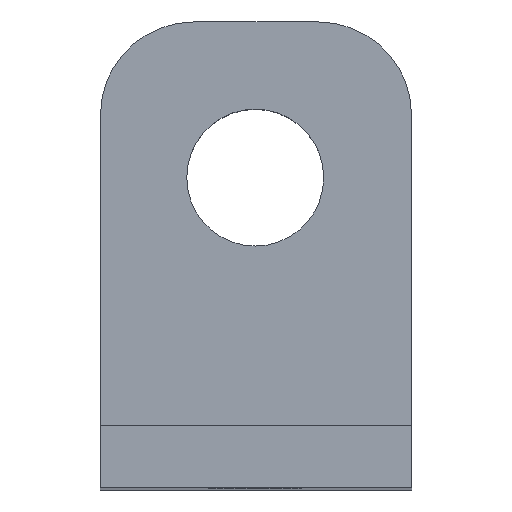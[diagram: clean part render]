
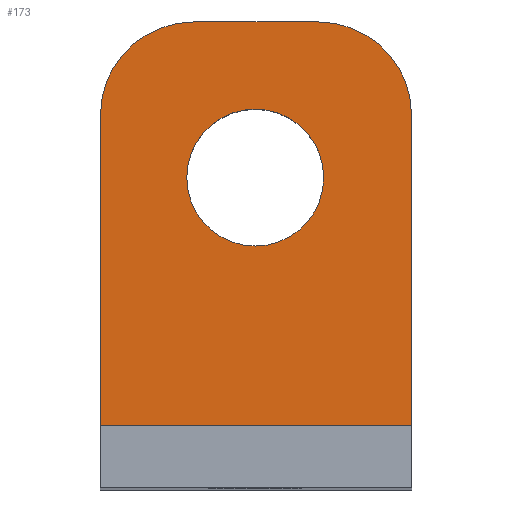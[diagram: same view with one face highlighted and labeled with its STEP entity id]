
A CAD part, top view. The second image highlights one B-rep face of the part: STEP entity #173.
In plain terms, the highlighted planar face has unit normal (0, 0, 1).
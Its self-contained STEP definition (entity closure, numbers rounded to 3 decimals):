
#5 = DIRECTION ( 'NONE',  ( 0., 0., 1. ) ) ;
#13 = DIRECTION ( 'NONE',  ( 0., 0., 1. ) ) ;
#19 = ORIENTED_EDGE ( 'NONE', *, *, #581, .T. ) ;
#25 = FACE_BOUND ( 'NONE', #305, .T. ) ;
#56 = CARTESIAN_POINT ( 'NONE',  ( -4.975, 0., 4. ) ) ;
#63 = CARTESIAN_POINT ( 'NONE',  ( -4.975, 2., 4. ) ) ;
#73 = CARTESIAN_POINT ( 'NONE',  ( 2.025, 2., 4. ) ) ;
#85 = ORIENTED_EDGE ( 'NONE', *, *, #394, .T. ) ;
#96 = CARTESIAN_POINT ( 'NONE',  ( -1.975, 5., 4. ) ) ;
#100 = EDGE_LOOP ( 'NONE', ( #85, #430, #105, #19, #561, #122 ) ) ;
#101 = DIRECTION ( 'NONE',  ( 1., 0., 0. ) ) ;
#105 = ORIENTED_EDGE ( 'NONE', *, *, #417, .T. ) ;
#107 = DIRECTION ( 'NONE',  ( 0., -1., 0. ) ) ;
#108 = CARTESIAN_POINT ( 'NONE',  ( 5.025, -8., 4. ) ) ;
#110 = LINE ( 'NONE', #56, #508 ) ;
#118 = VERTEX_POINT ( 'NONE', #340 ) ;
#122 = ORIENTED_EDGE ( 'NONE', *, *, #471, .T. ) ;
#132 = DIRECTION ( 'NONE',  ( 0., 0., 1. ) ) ;
#145 = VECTOR ( 'NONE', #573, 1000. ) ;
#173 = ADVANCED_FACE ( 'NONE', ( #266, #25 ), #451, .T. ) ;
#178 = AXIS2_PLACEMENT_3D ( 'NONE', #387, #344, #578 ) ;
#179 = DIRECTION ( 'NONE',  ( 1., 0., 0. ) ) ;
#206 = ORIENTED_EDGE ( 'NONE', *, *, #506, .F. ) ;
#207 = VERTEX_POINT ( 'NONE', #108 ) ;
#214 = VERTEX_POINT ( 'NONE', #312 ) ;
#222 = AXIS2_PLACEMENT_3D ( 'NONE', #415, #498, #456 ) ;
#225 = VERTEX_POINT ( 'NONE', #354 ) ;
#231 = VERTEX_POINT ( 'NONE', #604 ) ;
#232 = VERTEX_POINT ( 'NONE', #63 ) ;
#243 = CARTESIAN_POINT ( 'NONE',  ( 0., 0., 4. ) ) ;
#244 = AXIS2_PLACEMENT_3D ( 'NONE', #243, #5, #290 ) ;
#259 = CARTESIAN_POINT ( 'NONE',  ( 5.025, 2., 4. ) ) ;
#260 = VERTEX_POINT ( 'NONE', #259 ) ;
#266 = FACE_OUTER_BOUND ( 'NONE', #100, .T. ) ;
#268 = CARTESIAN_POINT ( 'NONE',  ( 5.025, 5., 4. ) ) ;
#272 = VECTOR ( 'NONE', #418, 1000. ) ;
#290 = DIRECTION ( 'NONE',  ( 1., 0., 0. ) ) ;
#299 = EDGE_CURVE ( 'NONE', #260, #225, #304, .T. ) ;
#304 = CIRCLE ( 'NONE', #620, 3. ) ;
#305 = EDGE_LOOP ( 'NONE', ( #614, #206 ) ) ;
#312 = CARTESIAN_POINT ( 'NONE',  ( 2.2, 0., 4. ) ) ;
#340 = CARTESIAN_POINT ( 'NONE',  ( -2.2, 0., 4. ) ) ;
#344 = DIRECTION ( 'NONE',  ( 0., 0., 1. ) ) ;
#347 = AXIS2_PLACEMENT_3D ( 'NONE', #494, #13, #460 ) ;
#354 = CARTESIAN_POINT ( 'NONE',  ( 2.025, 5., 4. ) ) ;
#375 = VECTOR ( 'NONE', #101, 1000. ) ;
#380 = CARTESIAN_POINT ( 'NONE',  ( -4.975, 5., 4. ) ) ;
#387 = CARTESIAN_POINT ( 'NONE',  ( -1.975, 2., 4. ) ) ;
#394 = EDGE_CURVE ( 'NONE', #207, #260, #470, .T. ) ;
#415 = CARTESIAN_POINT ( 'NONE',  ( 0., 0., 4. ) ) ;
#417 = EDGE_CURVE ( 'NONE', #225, #478, #621, .T. ) ;
#418 = DIRECTION ( 'NONE',  ( 0., 1., 0. ) ) ;
#430 = ORIENTED_EDGE ( 'NONE', *, *, #299, .T. ) ;
#451 = PLANE ( 'NONE',  #222 ) ;
#456 = DIRECTION ( 'NONE',  ( 1., 0., 0. ) ) ;
#457 = CIRCLE ( 'NONE', #178, 3. ) ;
#460 = DIRECTION ( 'NONE',  ( 1., 0., 0. ) ) ;
#470 = LINE ( 'NONE', #268, #272 ) ;
#471 = EDGE_CURVE ( 'NONE', #231, #207, #539, .T. ) ;
#478 = VERTEX_POINT ( 'NONE', #96 ) ;
#486 = CARTESIAN_POINT ( 'NONE',  ( -4.975, -8., 4. ) ) ;
#494 = CARTESIAN_POINT ( 'NONE',  ( 0., 0., 4. ) ) ;
#498 = DIRECTION ( 'NONE',  ( 0., 0., 1. ) ) ;
#506 = EDGE_CURVE ( 'NONE', #214, #118, #587, .T. ) ;
#508 = VECTOR ( 'NONE', #107, 1000. ) ;
#539 = LINE ( 'NONE', #486, #375 ) ;
#561 = ORIENTED_EDGE ( 'NONE', *, *, #610, .T. ) ;
#573 = DIRECTION ( 'NONE',  ( -1., 0., 0. ) ) ;
#578 = DIRECTION ( 'NONE',  ( 1., 0., 0. ) ) ;
#581 = EDGE_CURVE ( 'NONE', #478, #232, #457, .T. ) ;
#587 = CIRCLE ( 'NONE', #244, 2.2 ) ;
#602 = EDGE_CURVE ( 'NONE', #118, #214, #619, .T. ) ;
#604 = CARTESIAN_POINT ( 'NONE',  ( -4.975, -8., 4. ) ) ;
#610 = EDGE_CURVE ( 'NONE', #232, #231, #110, .T. ) ;
#614 = ORIENTED_EDGE ( 'NONE', *, *, #602, .F. ) ;
#619 = CIRCLE ( 'NONE', #347, 2.2 ) ;
#620 = AXIS2_PLACEMENT_3D ( 'NONE', #73, #132, #179 ) ;
#621 = LINE ( 'NONE', #380, #145 ) ;
